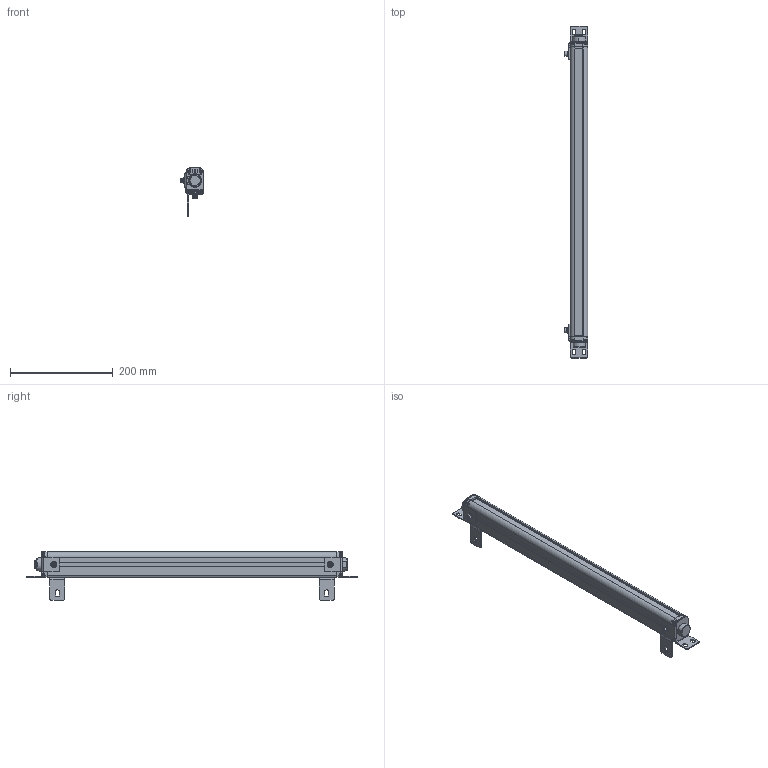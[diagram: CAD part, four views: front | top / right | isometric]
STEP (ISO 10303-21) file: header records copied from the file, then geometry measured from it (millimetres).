
FILE_DESCRIPTION((''),'2;1');
FILE_NAME('ESN--000_ASM','2021-08-11T16:04:32',('18720616900'),(''),'CREO PARAMETRIC BY PTC INC, 2019010','CREO PARAMETRIC BY PTC INC, 2019010','');
FILE_SCHEMA(('CONFIG_CONTROL_DESIGN'));
Products named in the file (22): 00; 000; _0002; _0003; _0004; 5000; 5--0001; ESN_50001_ASM; ST-3-120001; L10001; M6-8--0001; M6-1--00; M6-1-00; M6-80001_ASM; L1--0001_ASM; H1--000; H1--0003_ASM; H1--0001_ASM; ESN--000_ASM
Assembly tree (35 placements, depth 4):
  ESN--000_ASM
    00
    000
    _0002
    _0003
    _0004
    000
    ESN_50001_ASM
      5000
      5--0001  x5
    ST-3-120001  x8
    L1--0001_ASM  x2
      L10001
      M6-80001_ASM
        M6-8--0001
        M6-1--00
        M6-1-00
        00
    H1--0003_ASM
      H1--000
      M6-80001_ASM
        M6-8--0001
        M6-1--00
        M6-1-00
        00
    H1--0001_ASM
      H1--000
      M6-80001_ASM
        M6-8--0001
        M6-1--00
        M6-1-00
        00
Bounding box: 46.5 x 647 x 94.95 mm (x, y, z)
Volume: 894555.8 mm3; surface area: 208677.8 mm2
Topology: 40 solids, 40 shells, 1785 faces, 4708 edges, 3012 vertices
Faces by surface type: plane 583, cylinder 416, bspline 362, cone 291, torus 107, sphere 26
Entity records: 48222 total; most frequent: CARTESIAN_POINT 24957, ORIENTED_EDGE 5136, DIRECTION 4189, EDGE_CURVE 2568, VERTEX_POINT 1669, AXIS2_PLACEMENT_3D 1488, VECTOR 1213, LINE 1213
